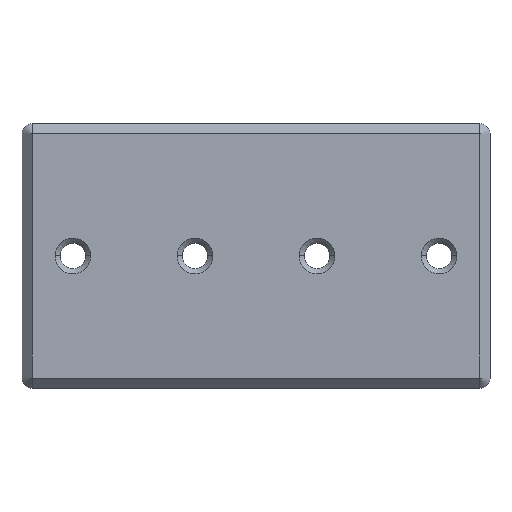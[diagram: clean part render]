
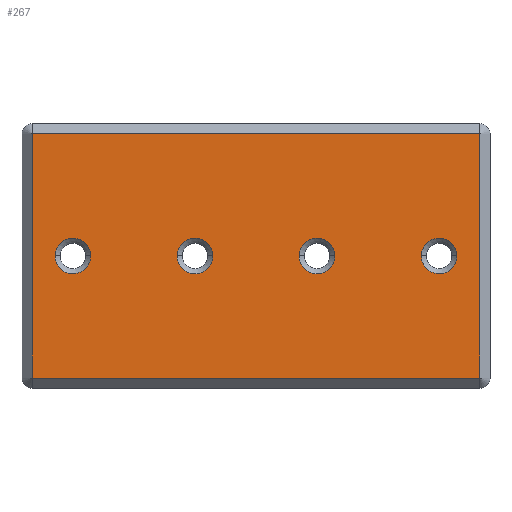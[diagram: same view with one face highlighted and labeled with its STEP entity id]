
A CAD part, top view. The second image highlights one B-rep face of the part: STEP entity #267.
In plain terms, the highlighted planar face has unit normal (0, 0, 1).
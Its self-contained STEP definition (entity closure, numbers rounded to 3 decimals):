
#3 = CIRCLE ( 'NONE', #850, 1.75 ) ;
#9 = VERTEX_POINT ( 'NONE', #794 ) ;
#23 = FACE_BOUND ( 'NONE', #178, .T. ) ;
#24 = VERTEX_POINT ( 'NONE', #869 ) ;
#25 = CARTESIAN_POINT ( 'NONE',  ( 22., 12., 7. ) ) ;
#30 = EDGE_CURVE ( 'NONE', #193, #896, #629, .T. ) ;
#37 = AXIS2_PLACEMENT_3D ( 'NONE', #266, #568, #689 ) ;
#51 = DIRECTION ( 'NONE',  ( 0., 0., -1. ) ) ;
#70 = DIRECTION ( 'NONE',  ( 0., 0., -1. ) ) ;
#75 = DIRECTION ( 'NONE',  ( 0., 1., 0. ) ) ;
#84 = VERTEX_POINT ( 'NONE', #342 ) ;
#92 = ORIENTED_EDGE ( 'NONE', *, *, #421, .T. ) ;
#101 = LINE ( 'NONE', #553, #787 ) ;
#108 = DIRECTION ( 'NONE',  ( 0., 0., -1. ) ) ;
#123 = VERTEX_POINT ( 'NONE', #892 ) ;
#133 = DIRECTION ( 'NONE',  ( 0., 0., -1. ) ) ;
#150 = EDGE_CURVE ( 'NONE', #24, #84, #753, .T. ) ;
#165 = ORIENTED_EDGE ( 'NONE', *, *, #615, .T. ) ;
#171 = PLANE ( 'NONE',  #37 ) ;
#172 = ORIENTED_EDGE ( 'NONE', *, *, #827, .T. ) ;
#178 = EDGE_LOOP ( 'NONE', ( #293, #322 ) ) ;
#186 = EDGE_CURVE ( 'NONE', #214, #956, #436, .T. ) ;
#193 = VERTEX_POINT ( 'NONE', #898 ) ;
#199 = EDGE_LOOP ( 'NONE', ( #165, #284 ) ) ;
#206 = EDGE_LOOP ( 'NONE', ( #92, #172 ) ) ;
#212 = CARTESIAN_POINT ( 'NONE',  ( 6., 0., 7. ) ) ;
#214 = VERTEX_POINT ( 'NONE', #520 ) ;
#242 = CARTESIAN_POINT ( 'NONE',  ( 16.25, 0., 7. ) ) ;
#244 = CIRCLE ( 'NONE', #634, 1.75 ) ;
#253 = CARTESIAN_POINT ( 'NONE',  ( 18., 0., 7. ) ) ;
#266 = CARTESIAN_POINT ( 'NONE',  ( 0., 0., 7. ) ) ;
#267 = ADVANCED_FACE ( 'NONE', ( #331, #655, #952, #23, #639 ), #171, .T. ) ;
#281 = CARTESIAN_POINT ( 'NONE',  ( -18., 0., 7. ) ) ;
#284 = ORIENTED_EDGE ( 'NONE', *, *, #381, .T. ) ;
#291 = CIRCLE ( 'NONE', #665, 1.75 ) ;
#293 = ORIENTED_EDGE ( 'NONE', *, *, #766, .T. ) ;
#294 = CARTESIAN_POINT ( 'NONE',  ( 22., 12., 7. ) ) ;
#302 = DIRECTION ( 'NONE',  ( 1., 0., 0. ) ) ;
#304 = VERTEX_POINT ( 'NONE', #495 ) ;
#322 = ORIENTED_EDGE ( 'NONE', *, *, #725, .T. ) ;
#331 = FACE_OUTER_BOUND ( 'NONE', #588, .T. ) ;
#342 = CARTESIAN_POINT ( 'NONE',  ( -22., -12., 7. ) ) ;
#343 = DIRECTION ( 'NONE',  ( 1., 0., 0. ) ) ;
#358 = DIRECTION ( 'NONE',  ( 0., 0., -1. ) ) ;
#378 = CARTESIAN_POINT ( 'NONE',  ( -18., 0., 7. ) ) ;
#381 = EDGE_CURVE ( 'NONE', #304, #123, #931, .T. ) ;
#382 = LINE ( 'NONE', #790, #968 ) ;
#383 = CIRCLE ( 'NONE', #943, 1.75 ) ;
#421 = EDGE_CURVE ( 'NONE', #429, #923, #517, .T. ) ;
#429 = VERTEX_POINT ( 'NONE', #659 ) ;
#436 = LINE ( 'NONE', #294, #928 ) ;
#465 = VECTOR ( 'NONE', #529, 1000. ) ;
#468 = CARTESIAN_POINT ( 'NONE',  ( -16.25, 0., 7. ) ) ;
#473 = DIRECTION ( 'NONE',  ( -1., 0., 0. ) ) ;
#481 = DIRECTION ( 'NONE',  ( 0., 0., -1. ) ) ;
#495 = CARTESIAN_POINT ( 'NONE',  ( 4.25, 0., 7. ) ) ;
#502 = DIRECTION ( 'NONE',  ( 1., 0., 0. ) ) ;
#517 = CIRCLE ( 'NONE', #915, 1.75 ) ;
#519 = EDGE_CURVE ( 'NONE', #896, #193, #291, .T. ) ;
#520 = CARTESIAN_POINT ( 'NONE',  ( 22., -12., 7. ) ) ;
#529 = DIRECTION ( 'NONE',  ( 0., -1., 0. ) ) ;
#536 = AXIS2_PLACEMENT_3D ( 'NONE', #653, #946, #343 ) ;
#549 = AXIS2_PLACEMENT_3D ( 'NONE', #212, #51, #893 ) ;
#551 = EDGE_LOOP ( 'NONE', ( #781, #987 ) ) ;
#553 = CARTESIAN_POINT ( 'NONE',  ( 22., -12., 7. ) ) ;
#556 = CARTESIAN_POINT ( 'NONE',  ( -7.75, 0., 7. ) ) ;
#568 = DIRECTION ( 'NONE',  ( 0., 0., 1. ) ) ;
#588 = EDGE_LOOP ( 'NONE', ( #954, #921, #849, #674 ) ) ;
#590 = DIRECTION ( 'NONE',  ( 1., 0., 0. ) ) ;
#615 = EDGE_CURVE ( 'NONE', #123, #304, #754, .T. ) ;
#629 = CIRCLE ( 'NONE', #724, 1.75 ) ;
#634 = AXIS2_PLACEMENT_3D ( 'NONE', #253, #481, #641 ) ;
#639 = FACE_BOUND ( 'NONE', #551, .T. ) ;
#641 = DIRECTION ( 'NONE',  ( 1., 0., 0. ) ) ;
#653 = CARTESIAN_POINT ( 'NONE',  ( 6., 0., 7. ) ) ;
#655 = FACE_BOUND ( 'NONE', #206, .T. ) ;
#658 = EDGE_CURVE ( 'NONE', #84, #214, #101, .T. ) ;
#659 = CARTESIAN_POINT ( 'NONE',  ( 19.75, 0., 7. ) ) ;
#665 = AXIS2_PLACEMENT_3D ( 'NONE', #378, #774, #767 ) ;
#674 = ORIENTED_EDGE ( 'NONE', *, *, #832, .T. ) ;
#676 = CARTESIAN_POINT ( 'NONE',  ( -6., 0., 7. ) ) ;
#689 = DIRECTION ( 'NONE',  ( 1., 0., 0. ) ) ;
#724 = AXIS2_PLACEMENT_3D ( 'NONE', #281, #108, #590 ) ;
#725 = EDGE_CURVE ( 'NONE', #876, #9, #3, .T. ) ;
#753 = LINE ( 'NONE', #841, #465 ) ;
#754 = CIRCLE ( 'NONE', #536, 1.75 ) ;
#766 = EDGE_CURVE ( 'NONE', #9, #876, #383, .T. ) ;
#767 = DIRECTION ( 'NONE',  ( 1., 0., 0. ) ) ;
#774 = DIRECTION ( 'NONE',  ( 0., 0., -1. ) ) ;
#781 = ORIENTED_EDGE ( 'NONE', *, *, #519, .T. ) ;
#787 = VECTOR ( 'NONE', #951, 1000. ) ;
#790 = CARTESIAN_POINT ( 'NONE',  ( -22., 12., 7. ) ) ;
#794 = CARTESIAN_POINT ( 'NONE',  ( -4.25, 0., 7. ) ) ;
#827 = EDGE_CURVE ( 'NONE', #923, #429, #244, .T. ) ;
#831 = DIRECTION ( 'NONE',  ( 1., 0., 0. ) ) ;
#832 = EDGE_CURVE ( 'NONE', #956, #24, #382, .T. ) ;
#841 = CARTESIAN_POINT ( 'NONE',  ( -22., -12., 7. ) ) ;
#849 = ORIENTED_EDGE ( 'NONE', *, *, #186, .T. ) ;
#850 = AXIS2_PLACEMENT_3D ( 'NONE', #984, #70, #831 ) ;
#869 = CARTESIAN_POINT ( 'NONE',  ( -22., 12., 7. ) ) ;
#876 = VERTEX_POINT ( 'NONE', #556 ) ;
#892 = CARTESIAN_POINT ( 'NONE',  ( 7.75, 0., 7. ) ) ;
#893 = DIRECTION ( 'NONE',  ( 1., 0., 0. ) ) ;
#896 = VERTEX_POINT ( 'NONE', #468 ) ;
#898 = CARTESIAN_POINT ( 'NONE',  ( -19.75, 0., 7. ) ) ;
#915 = AXIS2_PLACEMENT_3D ( 'NONE', #972, #358, #502 ) ;
#921 = ORIENTED_EDGE ( 'NONE', *, *, #658, .T. ) ;
#923 = VERTEX_POINT ( 'NONE', #242 ) ;
#928 = VECTOR ( 'NONE', #75, 1000. ) ;
#931 = CIRCLE ( 'NONE', #549, 1.75 ) ;
#943 = AXIS2_PLACEMENT_3D ( 'NONE', #676, #133, #302 ) ;
#946 = DIRECTION ( 'NONE',  ( 0., 0., -1. ) ) ;
#951 = DIRECTION ( 'NONE',  ( 1., 0., 0. ) ) ;
#952 = FACE_BOUND ( 'NONE', #199, .T. ) ;
#954 = ORIENTED_EDGE ( 'NONE', *, *, #150, .T. ) ;
#956 = VERTEX_POINT ( 'NONE', #25 ) ;
#968 = VECTOR ( 'NONE', #473, 1000. ) ;
#972 = CARTESIAN_POINT ( 'NONE',  ( 18., 0., 7. ) ) ;
#984 = CARTESIAN_POINT ( 'NONE',  ( -6., 0., 7. ) ) ;
#987 = ORIENTED_EDGE ( 'NONE', *, *, #30, .T. ) ;
